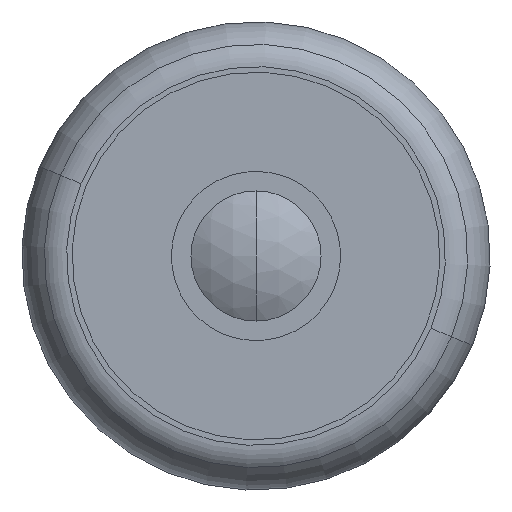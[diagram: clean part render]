
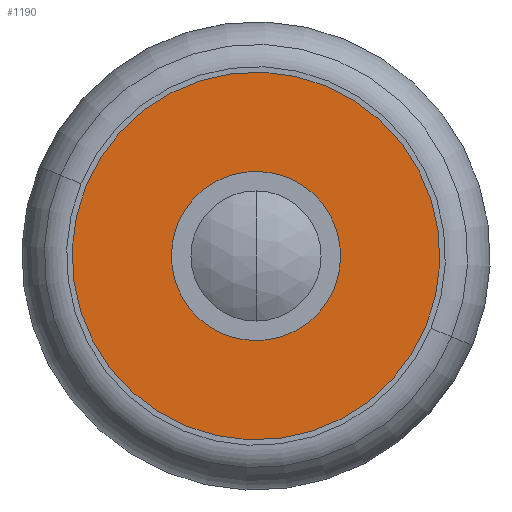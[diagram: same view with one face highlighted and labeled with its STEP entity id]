
A CAD part, left-side view. The second image highlights one B-rep face of the part: STEP entity #1190.
In plain terms, the highlighted planar face has unit normal (-1, 0, 0) as drawn and (1, 0, 0) by its records, which use the part's own axes.
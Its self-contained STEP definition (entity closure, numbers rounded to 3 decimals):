
#55 = VERTEX_POINT ( 'NONE', #1516 ) ;
#61 = CIRCLE ( 'NONE', #637, 2.825 ) ;
#64 = EDGE_LOOP ( 'NONE', ( #1680, #1395 ) ) ;
#101 = ORIENTED_EDGE ( 'NONE', *, *, #460, .F. ) ;
#154 = CARTESIAN_POINT ( 'NONE',  ( 8.1, 0., 0. ) ) ;
#157 = CARTESIAN_POINT ( 'NONE',  ( 8.1, 0., 0. ) ) ;
#205 = AXIS2_PLACEMENT_3D ( 'NONE', #157, #1100, #444 ) ;
#208 = DIRECTION ( 'NONE',  ( -1., 0., 0. ) ) ;
#248 = CARTESIAN_POINT ( 'NONE',  ( 8.1, 0., 0. ) ) ;
#263 = FACE_OUTER_BOUND ( 'NONE', #667, .T. ) ;
#355 = DIRECTION ( 'NONE',  ( 0., 0., 1. ) ) ;
#362 = VERTEX_POINT ( 'NONE', #1303 ) ;
#444 = DIRECTION ( 'NONE',  ( 0., 0., 1. ) ) ;
#460 = EDGE_CURVE ( 'NONE', #1481, #55, #1056, .T. ) ;
#499 = AXIS2_PLACEMENT_3D ( 'NONE', #1581, #779, #515 ) ;
#515 = DIRECTION ( 'NONE',  ( 0., 0., 1. ) ) ;
#591 = CARTESIAN_POINT ( 'NONE',  ( 8.1, 0., -2.825 ) ) ;
#593 = FACE_BOUND ( 'NONE', #64, .T. ) ;
#636 = DIRECTION ( 'NONE',  ( 0., 0., 1. ) ) ;
#637 = AXIS2_PLACEMENT_3D ( 'NONE', #154, #1112, #1387 ) ;
#667 = EDGE_LOOP ( 'NONE', ( #1105, #101 ) ) ;
#779 = DIRECTION ( 'NONE',  ( -1., 0., 0. ) ) ;
#782 = CARTESIAN_POINT ( 'NONE',  ( 8.1, 2.825, 0. ) ) ;
#790 = EDGE_CURVE ( 'NONE', #362, #796, #1091, .T. ) ;
#796 = VERTEX_POINT ( 'NONE', #1248 ) ;
#947 = EDGE_CURVE ( 'NONE', #55, #1481, #61, .T. ) ;
#1056 = CIRCLE ( 'NONE', #1475, 2.825 ) ;
#1091 = CIRCLE ( 'NONE', #205, 1.3 ) ;
#1100 = DIRECTION ( 'NONE',  ( -1., 0., 0. ) ) ;
#1105 = ORIENTED_EDGE ( 'NONE', *, *, #947, .F. ) ;
#1112 = DIRECTION ( 'NONE',  ( -1., 0., 0. ) ) ;
#1190 = ADVANCED_FACE ( 'NONE', ( #263, #593 ), #1562, .F. ) ;
#1199 = AXIS2_PLACEMENT_3D ( 'NONE', #782, #208, #636 ) ;
#1231 = CIRCLE ( 'NONE', #499, 1.3 ) ;
#1248 = CARTESIAN_POINT ( 'NONE',  ( 8.1, 0., 1.3 ) ) ;
#1303 = CARTESIAN_POINT ( 'NONE',  ( 8.1, 0., -1.3 ) ) ;
#1387 = DIRECTION ( 'NONE',  ( 0., 0., 1. ) ) ;
#1395 = ORIENTED_EDGE ( 'NONE', *, *, #790, .T. ) ;
#1475 = AXIS2_PLACEMENT_3D ( 'NONE', #248, #1722, #355 ) ;
#1481 = VERTEX_POINT ( 'NONE', #591 ) ;
#1514 = EDGE_CURVE ( 'NONE', #796, #362, #1231, .T. ) ;
#1516 = CARTESIAN_POINT ( 'NONE',  ( 8.1, 0., 2.825 ) ) ;
#1562 = PLANE ( 'NONE',  #1199 ) ;
#1581 = CARTESIAN_POINT ( 'NONE',  ( 8.1, 0., 0. ) ) ;
#1680 = ORIENTED_EDGE ( 'NONE', *, *, #1514, .T. ) ;
#1722 = DIRECTION ( 'NONE',  ( -1., 0., 0. ) ) ;
